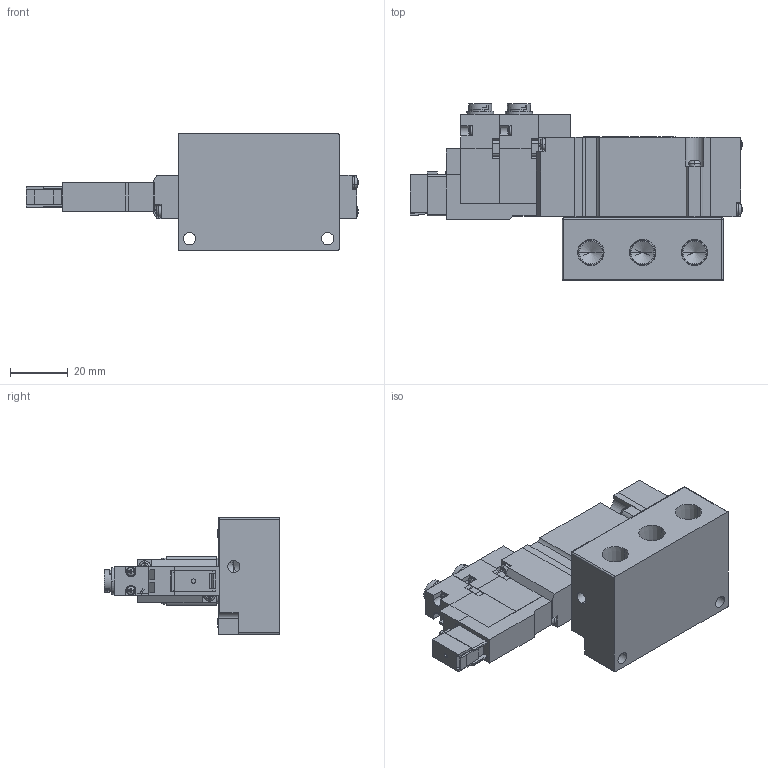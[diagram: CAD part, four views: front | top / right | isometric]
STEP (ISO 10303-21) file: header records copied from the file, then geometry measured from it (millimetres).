
FILE_DESCRIPTION (( 'STEP AP203' ), '1' );
FILE_NAME ('A12GD25#-#-#-E.STEP', '2016-02-04T02:25:26', ( 'Sam Lin' ), ( '' ), 'SwSTEP 2.0', 'SolidWorks 2013', '' );
FILE_SCHEMA (( 'CONFIG_CONTROL_DESIGN' ));
Length unit declared in the file: metre
Products named in the file (18): A05FS25-6; A05RS25-3; A12P墊片; A12GD25#-#-#-E; A05RS25-4; A12P-1; ISO 7045 - M1.6 x 10; A12P底座; A05RS25-5; A12P-2; A05RS25-6; ISO 7045 - M2.5 x 8-D4; DC24-A05F-1; mark-ADEX-A12; DC24-A05G-3; A12G-1; DC24-A05F-2; A12G-3
Assembly tree (31 placements, depth 2):
  A12GD25#-#-#-E
    A12P墊片
    A12P-1
    A12P底座
    A12P-2
    ISO 7045 - M2.5 x 8-D4  x6
    mark-ADEX-A12
    A12G-1
    A12G-3
    A05RS25-3  x2
    A05RS25-4  x2
    ISO 7045 - M1.6 x 10  x4
    A05RS25-5  x2
    A05RS25-6  x4
    DC24-A05F-1
    DC24-A05G-3
    DC24-A05F-2
    A05FS25-6
Bounding box: 115.3 x 61.1 x 40.5 mm (x, y, z)
Volume: 84912.7 mm3; surface area: 31272.5 mm2
Topology: 39 solids, 39 shells, 1070 faces, 2728 edges, 1739 vertices
Faces by surface type: plane 692, cylinder 190, cone 114, bspline 74
Entity records: 22186 total; most frequent: CARTESIAN_POINT 5289, ORIENTED_EDGE 3030, DIRECTION 2981, EDGE_CURVE 1515, LINE 1091, VECTOR 1091, VERTEX_POINT 996, AXIS2_PLACEMENT_3D 945
